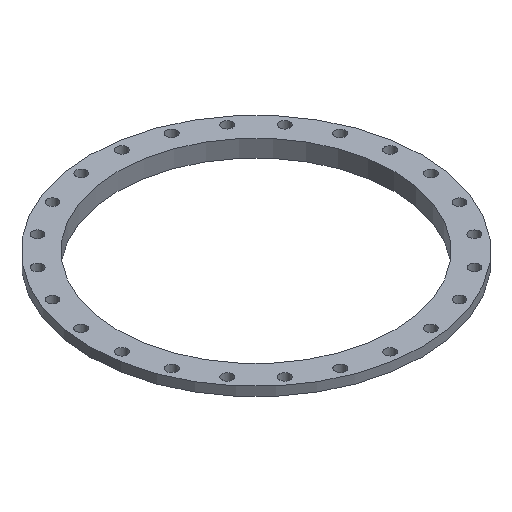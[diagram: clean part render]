
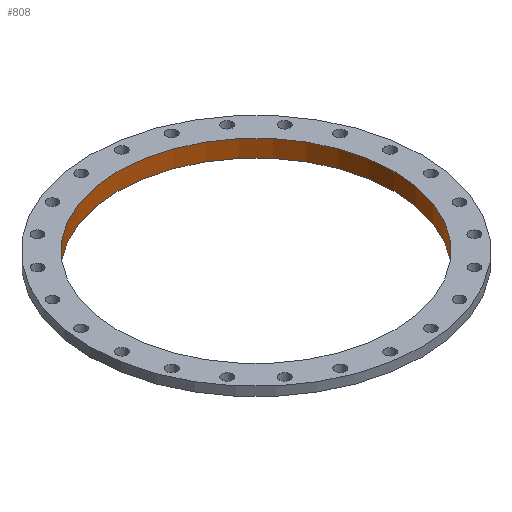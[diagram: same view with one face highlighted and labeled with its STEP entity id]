
A CAD part, isometric view. The second image highlights one B-rep face of the part: STEP entity #808.
In plain terms, the highlighted cylindrical face has radius 434 mm (diameter 868 mm), a full revolution.
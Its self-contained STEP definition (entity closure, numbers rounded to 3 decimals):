
#100=FACE_OUTER_BOUND('',#157,.T.);
#157=EDGE_LOOP('',(#695,#696,#697,#698,#699,#700));
#210=LINE('',#1440,#237);
#237=VECTOR('',#1206,434.);
#321=CIRCLE('',#942,434.);
#322=CIRCLE('',#943,434.);
#323=CIRCLE('',#945,434.);
#324=CIRCLE('',#946,434.);
#407=VERTEX_POINT('',#1434);
#408=VERTEX_POINT('',#1435);
#409=VERTEX_POINT('',#1439);
#410=VERTEX_POINT('',#1441);
#520=EDGE_CURVE('',#407,#408,#321,.T.);
#521=EDGE_CURVE('',#408,#407,#322,.T.);
#522=EDGE_CURVE('',#408,#409,#210,.T.);
#523=EDGE_CURVE('',#410,#409,#323,.T.);
#524=EDGE_CURVE('',#409,#410,#324,.T.);
#695=ORIENTED_EDGE('',*,*,#520,.T.);
#696=ORIENTED_EDGE('',*,*,#522,.T.);
#697=ORIENTED_EDGE('',*,*,#523,.F.);
#698=ORIENTED_EDGE('',*,*,#524,.F.);
#699=ORIENTED_EDGE('',*,*,#522,.F.);
#700=ORIENTED_EDGE('',*,*,#521,.T.);
#778=CYLINDRICAL_SURFACE('',#944,434.);
#808=ADVANCED_FACE('',(#100),#778,.F.);
#942=AXIS2_PLACEMENT_3D('',#1436,#1200,#1201);
#943=AXIS2_PLACEMENT_3D('',#1437,#1202,#1203);
#944=AXIS2_PLACEMENT_3D('',#1438,#1204,#1205);
#945=AXIS2_PLACEMENT_3D('',#1442,#1207,#1208);
#946=AXIS2_PLACEMENT_3D('',#1443,#1209,#1210);
#1200=DIRECTION('center_axis',(0.,0.,-1.));
#1201=DIRECTION('ref_axis',(1.,0.,0.));
#1202=DIRECTION('center_axis',(0.,0.,-1.));
#1203=DIRECTION('ref_axis',(1.,0.,0.));
#1204=DIRECTION('center_axis',(0.,0.,-1.));
#1205=DIRECTION('ref_axis',(-1.,0.,0.));
#1206=DIRECTION('',(0.,0.,1.));
#1207=DIRECTION('center_axis',(0.,0.,-1.));
#1208=DIRECTION('ref_axis',(1.,0.,0.));
#1209=DIRECTION('center_axis',(0.,0.,-1.));
#1210=DIRECTION('ref_axis',(1.,0.,0.));
#1434=CARTESIAN_POINT('',(-434.,0.,-54.));
#1435=CARTESIAN_POINT('',(434.,0.,-54.));
#1436=CARTESIAN_POINT('Origin',(0.,0.,-54.));
#1437=CARTESIAN_POINT('Origin',(0.,0.,-54.));
#1438=CARTESIAN_POINT('Origin',(0.,0.,-27.));
#1439=CARTESIAN_POINT('',(434.,0.,0.));
#1440=CARTESIAN_POINT('',(434.,0.,-27.));
#1441=CARTESIAN_POINT('',(-434.,0.,0.));
#1442=CARTESIAN_POINT('Origin',(0.,0.,0.));
#1443=CARTESIAN_POINT('Origin',(0.,0.,0.));
